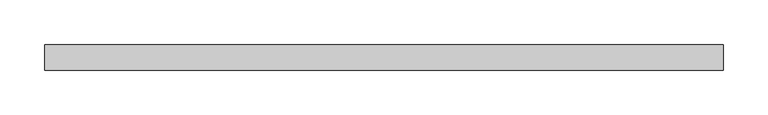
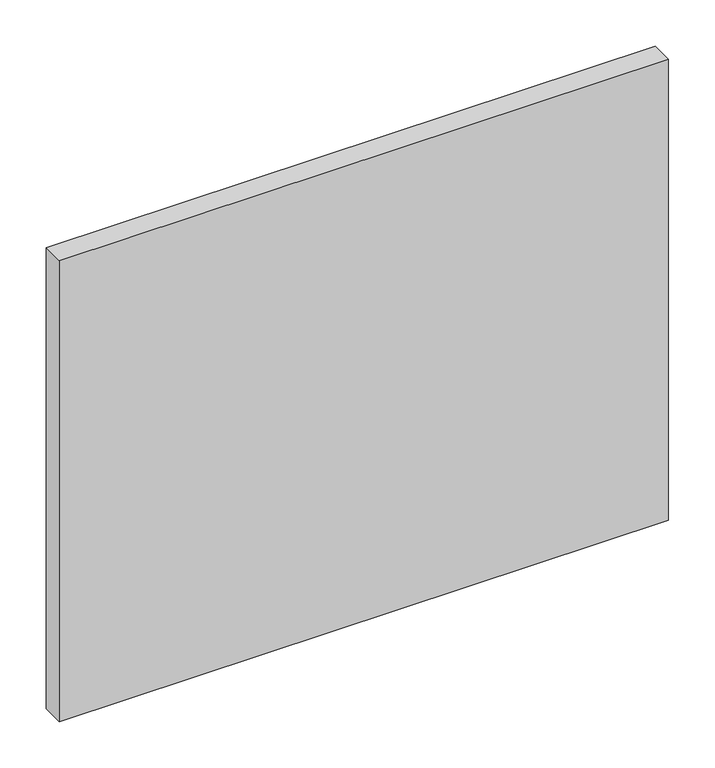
"""IFC4 building model written with IfcOpenShell, lengths in millimetres: proxy geometry, BASYS^OFFICE 7_LEGAL LAT-WORKSURFACE."""

from ifc_helpers import new_model, si_unit, frame, origin, place, context, project, spatial, polyline, outline, extrude, source, transform, mapped, element, save


def generic_models_c733547e(model_context):
    return source(origin(), model_context, "Body", "SweptSolid", [
        extrude(outline(polyline([(762.0, 0.0), (0.0, 0.0), (0.0, 28.575), (762.0, 28.575), (762.0, 0.0)])), frame((0.0, 0.0, -609.6), z_axis=(0.0, 0.0, 1.0), x_axis=(1.0, 0.0, 0.0)), (0.0, 0.0, 1.0), 609.6),
    ])


if __name__ == "__main__":
    model = new_model("IFC4")
    model_context = context("Model", 3, world=origin())
    ifc_project = project(units=[si_unit("LENGTHUNIT", "METRE", prefix="MILLI")], contexts=[model_context])
    site = spatial("IfcSite", under=ifc_project)
    building = spatial("IfcBuilding", under=site)
    placement = place(None, origin())
    generic_models_shape = generic_models_c733547e(model_context)
    element("IfcBuildingElementProxy", 1, Name="BASYS^OFFICE 7_LEGAL LAT-WORKSURFACE", ObjectType="BASYS^OFFICE 7_LEGAL LAT-WORKSURFACE", at=placement, inside=building, context=model_context, shape_type="MappedRepresentation", body=[
        mapped(generic_models_shape, transform((0.0, 0.0, 0.0), x_axis=(1.0, 0.0, 0.0), y_axis=(0.0, 1.0, 0.0), z_axis=(0.0, 0.0, 1.0))),
    ])
    save(model, "model.ifc")
